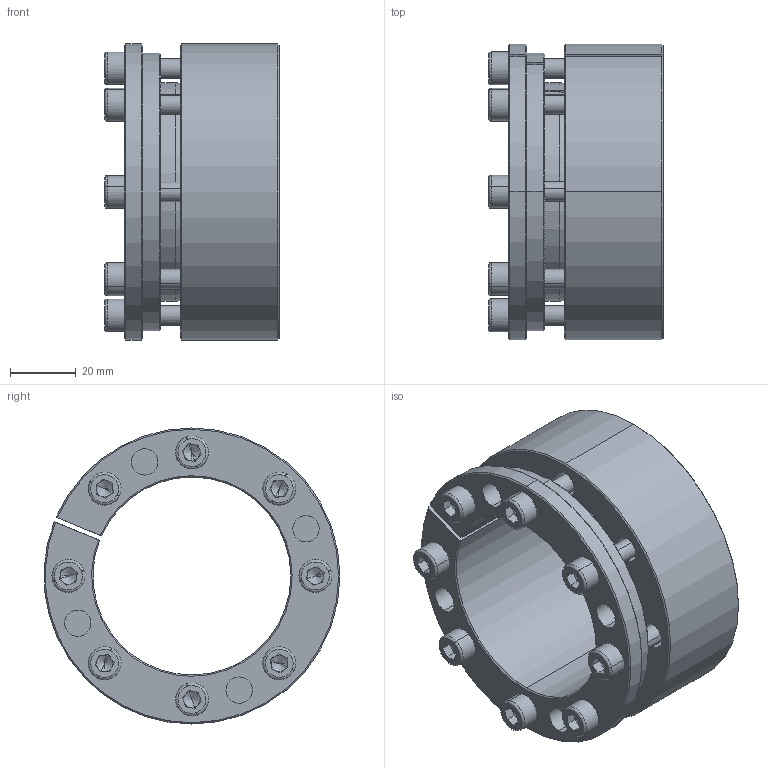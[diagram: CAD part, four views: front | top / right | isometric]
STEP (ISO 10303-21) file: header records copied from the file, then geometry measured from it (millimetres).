
FILE_DESCRIPTION (( 'STEP AP214' ), '1' );
FILE_NAME ('PL-H2 60-90.STEP', '2022-07-25T02:10:40', ( '' ), ( '' ), 'SwSTEP 2.0', 'SolidWorks 2022', '' );
FILE_SCHEMA (( 'AUTOMOTIVE_DESIGN' ));
Length unit declared in the file: millimetre
Products named in the file (1): PL-H2 60-90
Bounding box: 53 x 89.84 x 89.9 mm (x, y, z)
Volume: 131137.7 mm3; surface area: 49224.7 mm2
Topology: 1 solids, 1 shells, 299 faces, 729 edges, 440 vertices
Faces by surface type: plane 128, cylinder 87, cone 68, torus 16
Entity records: 8762 total; most frequent: DIRECTION 1626, CARTESIAN_POINT 1525, ORIENTED_EDGE 1426, EDGE_CURVE 713, AXIS2_PLACEMENT_3D 637, VERTEX_POINT 440, VECTOR 352, LINE 352
